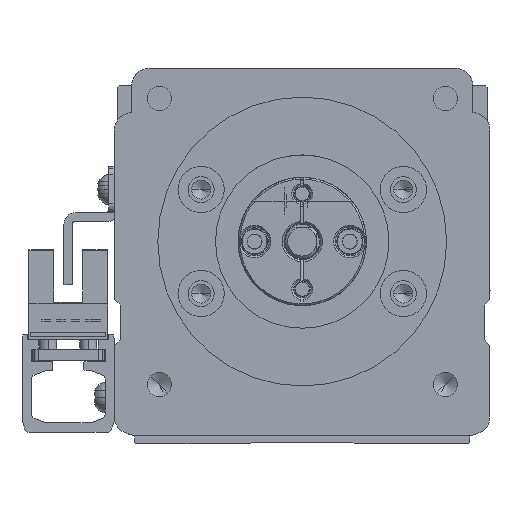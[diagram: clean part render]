
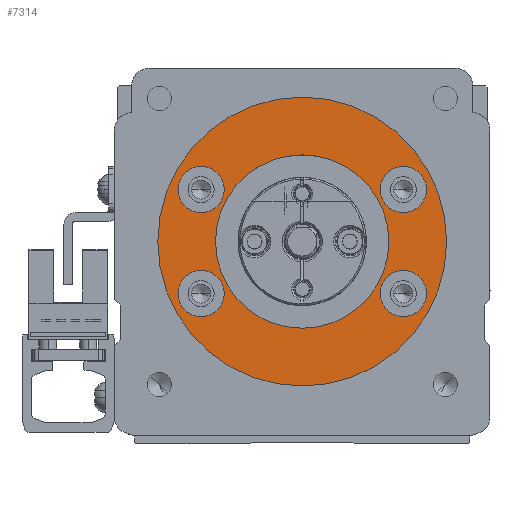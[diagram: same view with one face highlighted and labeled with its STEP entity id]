
A CAD part, front view. The second image highlights one B-rep face of the part: STEP entity #7314.
In plain terms, the highlighted planar face has unit normal (0, -1, 0).
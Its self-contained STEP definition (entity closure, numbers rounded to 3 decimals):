
#7314=ADVANCED_FACE('',(#15443,#15444,#15445,#15446,#15447,#15448),#15449,.F.);
#15443=FACE_BOUND('',#25584,.T.);
#15444=FACE_BOUND('',#25585,.T.);
#15445=FACE_BOUND('',#25586,.T.);
#15446=FACE_BOUND('',#25587,.T.);
#15447=FACE_BOUND('',#25588,.T.);
#15448=FACE_OUTER_BOUND('',#25589,.T.);
#15449=PLANE('',#25590);
#25584=EDGE_LOOP('',(#45618,#45619));
#25585=EDGE_LOOP('',(#45620,#45621));
#25586=EDGE_LOOP('',(#45622,#45623));
#25587=EDGE_LOOP('',(#45624,#45625));
#25588=EDGE_LOOP('',(#45626,#45627));
#25589=EDGE_LOOP('',(#45628,#45629));
#25590=AXIS2_PLACEMENT_3D('',#45630,#45631,#45632);
#45618=ORIENTED_EDGE('',*,*,#62918,.T.);
#45619=ORIENTED_EDGE('',*,*,#63043,.T.);
#45620=ORIENTED_EDGE('',*,*,#63709,.T.);
#45621=ORIENTED_EDGE('',*,*,#63710,.T.);
#45622=ORIENTED_EDGE('',*,*,#62009,.T.);
#45623=ORIENTED_EDGE('',*,*,#63711,.T.);
#45624=ORIENTED_EDGE('',*,*,#63712,.T.);
#45625=ORIENTED_EDGE('',*,*,#59529,.T.);
#45626=ORIENTED_EDGE('',*,*,#63060,.T.);
#45627=ORIENTED_EDGE('',*,*,#60856,.T.);
#45628=ORIENTED_EDGE('',*,*,#60316,.T.);
#45629=ORIENTED_EDGE('',*,*,#59980,.T.);
#45630=CARTESIAN_POINT('',(300.,-10.,0.));
#45631=DIRECTION('',(0.,1.0,0.));
#45632=DIRECTION('',(1.0,0.,0.));
#59529=EDGE_CURVE('',#72551,#72555,#72557,.T.);
#59980=EDGE_CURVE('',#73259,#73256,#73260,.T.);
#60316=EDGE_CURVE('',#73256,#73259,#73761,.T.);
#60856=EDGE_CURVE('',#74571,#74575,#74577,.T.);
#62009=EDGE_CURVE('',#76238,#76236,#76239,.T.);
#62918=EDGE_CURVE('',#77502,#77500,#77503,.T.);
#63043=EDGE_CURVE('',#77500,#77502,#77675,.T.);
#63060=EDGE_CURVE('',#74575,#74571,#77694,.T.);
#63709=EDGE_CURVE('',#78515,#78516,#78517,.T.);
#63710=EDGE_CURVE('',#78516,#78515,#78518,.T.);
#63711=EDGE_CURVE('',#76236,#76238,#78519,.T.);
#63712=EDGE_CURVE('',#72555,#72551,#78520,.T.);
#72551=VERTEX_POINT('',#90727);
#72555=VERTEX_POINT('',#90732);
#72557=CIRCLE('',#90735,4.0);
#73256=VERTEX_POINT('',#91690);
#73259=VERTEX_POINT('',#91694);
#73260=CIRCLE('',#91695,25.0);
#73761=CIRCLE('',#92449,25.0);
#74571=VERTEX_POINT('',#93569);
#74575=VERTEX_POINT('',#93574);
#74577=CIRCLE('',#93577,15.0);
#76236=VERTEX_POINT('',#95860);
#76238=VERTEX_POINT('',#95863);
#76239=CIRCLE('',#95864,4.0);
#77500=VERTEX_POINT('',#97654);
#77502=VERTEX_POINT('',#97657);
#77503=CIRCLE('',#97658,4.0);
#77675=CIRCLE('',#97908,4.0);
#77694=CIRCLE('',#97935,15.0);
#78515=VERTEX_POINT('',#99135);
#78516=VERTEX_POINT('',#99136);
#78517=CIRCLE('',#99137,4.0);
#78518=CIRCLE('',#99138,4.0);
#78519=CIRCLE('',#99139,4.0);
#78520=CIRCLE('',#99140,4.0);
#90727=CARTESIAN_POINT('',(313.5,-10.,9.));
#90732=CARTESIAN_POINT('',(321.5,-10.,9.));
#90735=AXIS2_PLACEMENT_3D('',#107821,#107822,#107823);
#91690=CARTESIAN_POINT('',(325.,-10.,0.));
#91694=CARTESIAN_POINT('',(275.,-10.,0.));
#91695=AXIS2_PLACEMENT_3D('',#108372,#108373,#108374);
#92449=AXIS2_PLACEMENT_3D('',#108831,#108832,#108833);
#93569=CARTESIAN_POINT('',(315.,-10.,0.));
#93574=CARTESIAN_POINT('',(285.,-10.,0.));
#93577=AXIS2_PLACEMENT_3D('',#109526,#109527,#109528);
#95860=CARTESIAN_POINT('',(278.5,-10.,9.));
#95863=CARTESIAN_POINT('',(286.5,-10.,9.));
#95864=AXIS2_PLACEMENT_3D('',#110954,#110955,#110956);
#97654=CARTESIAN_POINT('',(278.5,-10.,-9.));
#97657=CARTESIAN_POINT('',(286.5,-10.,-9.));
#97658=AXIS2_PLACEMENT_3D('',#112094,#112095,#112096);
#97908=AXIS2_PLACEMENT_3D('',#112239,#112240,#112241);
#97935=AXIS2_PLACEMENT_3D('',#112256,#112257,#112258);
#99135=CARTESIAN_POINT('',(321.5,-10.,-9.));
#99136=CARTESIAN_POINT('',(313.5,-10.,-9.));
#99137=AXIS2_PLACEMENT_3D('',#113030,#113031,#113032);
#99138=AXIS2_PLACEMENT_3D('',#113033,#113034,#113035);
#99139=AXIS2_PLACEMENT_3D('',#113036,#113037,#113038);
#99140=AXIS2_PLACEMENT_3D('',#113039,#113040,#113041);
#107821=CARTESIAN_POINT('',(317.5,-10.,9.));
#107822=DIRECTION('',(0.,1.0,0.));
#107823=DIRECTION('',(-1.0,0.,0.));
#108372=CARTESIAN_POINT('',(300.,-10.,0.));
#108373=DIRECTION('',(0.,-1.0,0.));
#108374=DIRECTION('',(1.0,0.,0.));
#108831=CARTESIAN_POINT('',(300.,-10.,0.));
#108832=DIRECTION('',(0.,-1.0,0.));
#108833=DIRECTION('',(1.0,0.,0.));
#109526=CARTESIAN_POINT('',(300.,-10.,0.));
#109527=DIRECTION('',(0.,1.0,0.));
#109528=DIRECTION('',(1.0,0.,0.));
#110954=CARTESIAN_POINT('',(282.5,-10.,9.));
#110955=DIRECTION('',(0.,1.0,0.));
#110956=DIRECTION('',(-1.0,0.,0.));
#112094=CARTESIAN_POINT('',(282.5,-10.,-9.));
#112095=DIRECTION('',(0.,1.0,0.));
#112096=DIRECTION('',(-1.0,0.,0.));
#112239=CARTESIAN_POINT('',(282.5,-10.,-9.));
#112240=DIRECTION('',(0.,1.0,0.));
#112241=DIRECTION('',(-1.0,0.,0.));
#112256=CARTESIAN_POINT('',(300.,-10.,0.));
#112257=DIRECTION('',(0.,1.0,0.));
#112258=DIRECTION('',(1.0,0.,0.));
#113030=CARTESIAN_POINT('',(317.5,-10.,-9.));
#113031=DIRECTION('',(0.,1.0,0.));
#113032=DIRECTION('',(-1.0,0.,0.));
#113033=CARTESIAN_POINT('',(317.5,-10.,-9.));
#113034=DIRECTION('',(0.,1.0,0.));
#113035=DIRECTION('',(-1.0,0.,0.));
#113036=CARTESIAN_POINT('',(282.5,-10.,9.));
#113037=DIRECTION('',(0.,1.0,0.));
#113038=DIRECTION('',(-1.0,0.,0.));
#113039=CARTESIAN_POINT('',(317.5,-10.,9.));
#113040=DIRECTION('',(0.,1.0,0.));
#113041=DIRECTION('',(-1.0,0.,0.));
